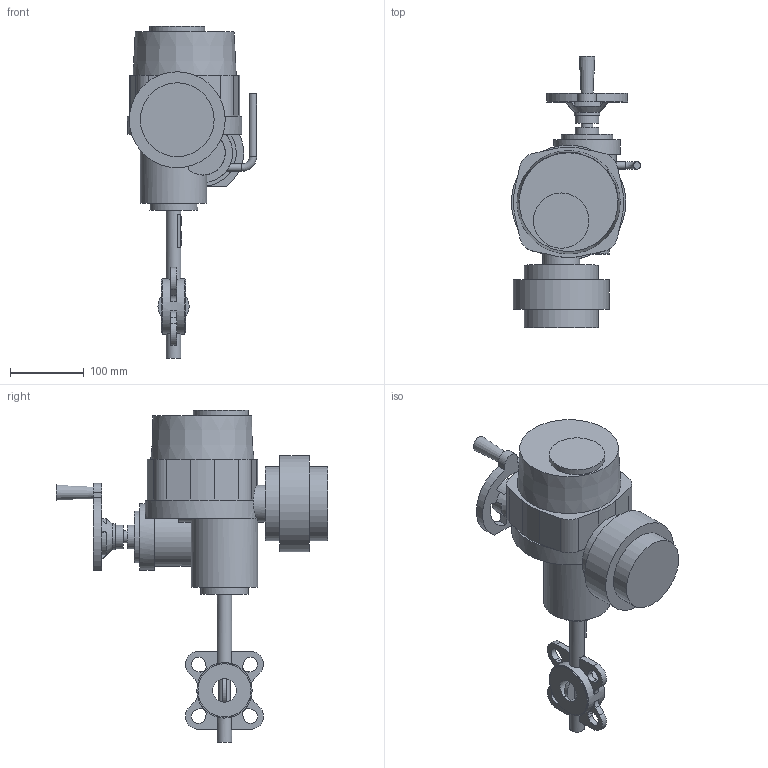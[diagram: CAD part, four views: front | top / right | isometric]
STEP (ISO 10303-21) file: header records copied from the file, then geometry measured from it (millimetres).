
FILE_DESCRIPTION(('STEP AP203'), '1');
FILE_NAME('Çàòâîð 017W.Z(÷óãóí) DN32+ÝÏ QT.A005', '', ('UNSPECIFIED'), ('UNSPECIFIED'), 'ASCON STEP Converter 1.6', 'ASCON Math Kernel', '');
FILE_SCHEMA(('CONFIG_CONTROL_DESIGN'));
Length unit declared in the file: millimetre
Bounding box: 175 x 368 x 450 mm (x, y, z)
Volume: 4797856.8 mm3; surface area: 285359.3 mm2
Topology: 1 solids, 1 shells, 702 faces, 1957 edges, 1297 vertices
Faces by surface type: cylinder 418, plane 280, cone 3, torus 1
Full cylindrical faces by diameter (mm): 6.7 x8, 8 x4, 10 x2, 16 x1, 20 x2, 32 x3, 35 x1, 50 x1, 65 x1, 70 x1, 72 x2, 75 x2, 90 x2, 100 x2, 130 x1
Entity records: 29648 total; most frequent: CARTESIAN_POINT 5237, DIRECTION 4185, ORIENTED_EDGE 3840, EDGE_CURVE 1920, AXIS2_PLACEMENT_3D 1588, VERTEX_POINT 1297, LINE 1009, VECTOR 1009
